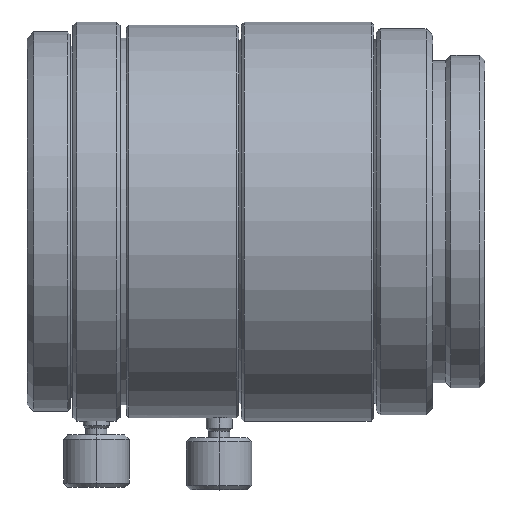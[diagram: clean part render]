
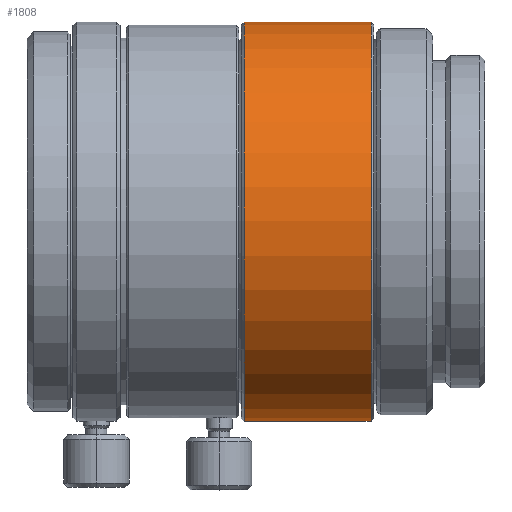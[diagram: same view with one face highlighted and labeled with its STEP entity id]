
A CAD part, top view. The second image highlights one B-rep face of the part: STEP entity #1808.
In plain terms, the highlighted cylindrical face has radius 15.25 mm (diameter 30.5 mm), a partial arc.
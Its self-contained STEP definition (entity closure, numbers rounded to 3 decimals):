
#26 = ORIENTED_EDGE ( 'NONE', *, *, #1536, .T. ) ;
#114 = CARTESIAN_POINT ( 'NONE',  ( -22.226, 15.25, 0. ) ) ;
#265 = VERTEX_POINT ( 'NONE', #437 ) ;
#286 = LINE ( 'NONE', #3259, #2685 ) ;
#377 = CIRCLE ( 'NONE', #2159, 15.25 ) ;
#437 = CARTESIAN_POINT ( 'NONE',  ( -22.226, -15.25, 0. ) ) ;
#652 = VERTEX_POINT ( 'NONE', #4060 ) ;
#714 = VECTOR ( 'NONE', #1780, 1000. ) ;
#822 = DIRECTION ( 'NONE',  ( 1., 0., 0. ) ) ;
#937 = CIRCLE ( 'NONE', #1677, 15.25 ) ;
#1129 = EDGE_CURVE ( 'NONE', #1645, #265, #937, .T. ) ;
#1536 = EDGE_CURVE ( 'NONE', #3327, #652, #377, .T. ) ;
#1645 = VERTEX_POINT ( 'NONE', #114 ) ;
#1658 = CARTESIAN_POINT ( 'NONE',  ( -31.926, 0., 0. ) ) ;
#1677 = AXIS2_PLACEMENT_3D ( 'NONE', #3013, #822, #3455 ) ;
#1765 = ORIENTED_EDGE ( 'NONE', *, *, #2253, .T. ) ;
#1780 = DIRECTION ( 'NONE',  ( 1., 0., 0. ) ) ;
#1808 = ADVANCED_FACE ( 'NONE', ( #1958 ), #1873, .T. ) ;
#1873 = CYLINDRICAL_SURFACE ( 'NONE', #2365, 15.25 ) ;
#1882 = EDGE_CURVE ( 'NONE', #3327, #1645, #2401, .T. ) ;
#1958 = FACE_OUTER_BOUND ( 'NONE', #4009, .T. ) ;
#1971 = DIRECTION ( 'NONE',  ( 0., 1., 0. ) ) ;
#2159 = AXIS2_PLACEMENT_3D ( 'NONE', #1658, #3833, #1971 ) ;
#2253 = EDGE_CURVE ( 'NONE', #652, #265, #286, .T. ) ;
#2365 = AXIS2_PLACEMENT_3D ( 'NONE', #3592, #3914, #2961 ) ;
#2401 = LINE ( 'NONE', #3960, #714 ) ;
#2582 = CARTESIAN_POINT ( 'NONE',  ( -31.926, 15.25, 0. ) ) ;
#2611 = ORIENTED_EDGE ( 'NONE', *, *, #1882, .F. ) ;
#2685 = VECTOR ( 'NONE', #2959, 1000. ) ;
#2959 = DIRECTION ( 'NONE',  ( 1., 0., 0. ) ) ;
#2961 = DIRECTION ( 'NONE',  ( 0., 1., 0. ) ) ;
#3013 = CARTESIAN_POINT ( 'NONE',  ( -22.226, 0., 0. ) ) ;
#3259 = CARTESIAN_POINT ( 'NONE',  ( 0., -15.25, 0. ) ) ;
#3327 = VERTEX_POINT ( 'NONE', #2582 ) ;
#3455 = DIRECTION ( 'NONE',  ( 0., 1., 0. ) ) ;
#3592 = CARTESIAN_POINT ( 'NONE',  ( 0., 0., 0. ) ) ;
#3833 = DIRECTION ( 'NONE',  ( 1., 0., 0. ) ) ;
#3914 = DIRECTION ( 'NONE',  ( 1., 0., 0. ) ) ;
#3960 = CARTESIAN_POINT ( 'NONE',  ( 0., 15.25, 0. ) ) ;
#3971 = ORIENTED_EDGE ( 'NONE', *, *, #1129, .F. ) ;
#4009 = EDGE_LOOP ( 'NONE', ( #26, #1765, #3971, #2611 ) ) ;
#4060 = CARTESIAN_POINT ( 'NONE',  ( -31.926, -15.25, 0. ) ) ;
